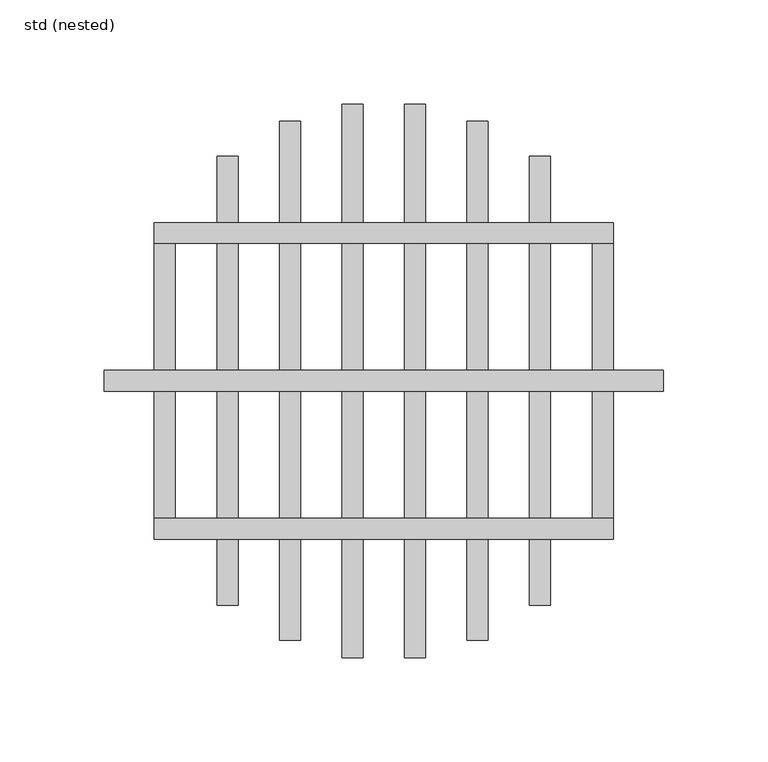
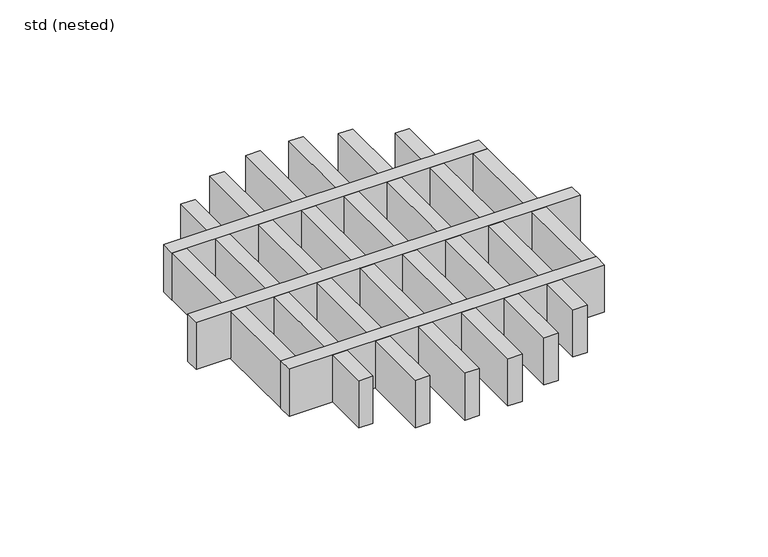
"""IFC4 building model written with IfcOpenShell, lengths in millimetres: sanitary terminal geometry, ZZZ_do not use_PF_ST_UN_round grating for hygienic gully_ACO : std (nested)."""

from ifc_helpers import new_model, si_unit, frame, origin, place, context, project, spatial, polyline, outline, extrude, source, transform, mapped, element, save


def std_nested_b7c3fa1a(model_context):
    return source(origin(), model_context, "Body", "SweptSolid", [
        extrude(outline(polyline([(110.3, 76.0), (110.3, 66.0), (-110.320743, 66.0), (-110.320743, 76.0), (110.3, 76.0)])), frame((0.0, 0.0, -35.0), z_axis=(0.0, 0.0, 1.0), x_axis=(1.0, 0.0, 0.0)), (0.0, 0.0, 1.0), 35.0),
        extrude(outline(polyline([(110.3, -76.0), (-110.320743, -76.0), (-110.320743, -66.0), (110.3, -66.0), (110.3, -76.0)])), frame((0.0, 0.0, -35.0), z_axis=(0.0, 0.0, 1.0), x_axis=(1.0, 0.0, 0.0)), (0.0, 0.0, 1.0), 35.0),
        extrude(outline(polyline([(134.3, 5.0), (134.3, -5.0), (-134.3, -5.0), (-134.3, 5.0), (134.3, 5.0)])), frame((0.0, 0.0, -35.0), z_axis=(0.0, 0.0, 1.0), x_axis=(1.0, 0.0, 0.0)), (0.0, 0.0, 1.0), 35.0),
        extrude(outline(polyline([(-100.3, 65.9), (-100.3, 5.0), (-110.3, 5.0), (-110.3, 65.9), (-100.3, 65.9)])), frame((0.0, 0.0, -35.0), z_axis=(0.0, 0.0, 1.0), x_axis=(1.0, 0.0, 0.0)), (0.0, 0.0, 1.0), 35.0),
        extrude(outline(polyline([(-100.3, -65.9), (-110.3, -65.9), (-110.3, -5.0), (-100.3, -5.0), (-100.3, -65.9)])), frame((0.0, 0.0, -35.0), z_axis=(0.0, 0.0, 1.0), x_axis=(1.0, 0.0, 0.0)), (0.0, 0.0, 1.0), 35.0),
        extrude(outline(polyline([(100.3, 65.9), (110.3, 65.9), (110.3, 5.0), (100.3, 5.0), (100.3, 65.9)])), frame((0.0, 0.0, -35.0), z_axis=(0.0, 0.0, 1.0), x_axis=(1.0, 0.0, 0.0)), (0.0, 0.0, 1.0), 35.0),
        extrude(outline(polyline([(100.3, -65.9), (100.3, -5.0), (110.3, -5.0), (110.3, -65.9), (100.3, -65.9)])), frame((0.0, 0.0, -35.0), z_axis=(0.0, 0.0, 1.0), x_axis=(1.0, 0.0, 0.0)), (0.0, 0.0, 1.0), 35.0),
        extrude(outline(polyline([(-69.999, 65.9), (-69.999, 5.0), (-79.999, 5.0), (-79.999, 65.9), (-69.999, 65.9)])), frame((0.0, 0.0, -35.0), z_axis=(0.0, 0.0, 1.0), x_axis=(1.0, 0.0, 0.0)), (0.0, 0.0, 1.0), 35.0),
        extrude(outline(polyline([(-69.999, -65.9), (-79.999, -65.9), (-79.999, -5.0), (-69.999, -5.0), (-69.999, -65.9)])), frame((0.0, 0.0, -35.0), z_axis=(0.0, 0.0, 1.0), x_axis=(1.0, 0.0, 0.0)), (0.0, 0.0, 1.0), 35.0),
        extrude(outline(polyline([(-40.0, 65.9), (-40.0, 5.0), (-50.0, 5.0), (-50.0, 65.9), (-40.0, 65.9)])), frame((0.0, 0.0, -35.0), z_axis=(0.0, 0.0, 1.0), x_axis=(1.0, 0.0, 0.0)), (0.0, 0.0, 1.0), 35.0),
        extrude(outline(polyline([(-40.0, -65.9), (-50.0, -65.9), (-50.0, -5.0), (-40.0, -5.0), (-40.0, -65.9)])), frame((0.0, 0.0, -35.0), z_axis=(0.0, 0.0, 1.0), x_axis=(1.0, 0.0, 0.0)), (0.0, 0.0, 1.0), 35.0),
        extrude(outline(polyline([(-10.0, 65.9), (-10.0, 5.0), (-20.0, 5.0), (-20.0, 65.9), (-10.0, 65.9)])), frame((0.0, 0.0, -35.0), z_axis=(0.0, 0.0, 1.0), x_axis=(1.0, 0.0, 0.0)), (0.0, 0.0, 1.0), 35.0),
        extrude(outline(polyline([(-10.0, -65.9), (-20.0, -65.9), (-20.0, -5.0), (-10.0, -5.0), (-10.0, -65.9)])), frame((0.0, 0.0, -35.0), z_axis=(0.0, 0.0, 1.0), x_axis=(1.0, 0.0, 0.0)), (0.0, 0.0, 1.0), 35.0),
        extrude(outline(polyline([(20.0, 65.9), (20.0, 5.0), (10.0, 5.0), (10.0, 65.9), (20.0, 65.9)])), frame((0.0, 0.0, -35.0), z_axis=(0.0, 0.0, 1.0), x_axis=(1.0, 0.0, 0.0)), (0.0, 0.0, 1.0), 35.0),
        extrude(outline(polyline([(20.0, -65.9), (10.0, -65.9), (10.0, -5.0), (20.0, -5.0), (20.0, -65.9)])), frame((0.0, 0.0, -35.0), z_axis=(0.0, 0.0, 1.0), x_axis=(1.0, 0.0, 0.0)), (0.0, 0.0, 1.0), 35.0),
        extrude(outline(polyline([(50.0, 65.9), (50.0, 5.0), (40.0, 5.0), (40.0, 65.9), (50.0, 65.9)])), frame((0.0, 0.0, -35.0), z_axis=(0.0, 0.0, 1.0), x_axis=(1.0, 0.0, 0.0)), (0.0, 0.0, 1.0), 35.0),
        extrude(outline(polyline([(50.0, -65.9), (40.0, -65.9), (40.0, -5.0), (50.0, -5.0), (50.0, -65.9)])), frame((0.0, 0.0, -35.0), z_axis=(0.0, 0.0, 1.0), x_axis=(1.0, 0.0, 0.0)), (0.0, 0.0, 1.0), 35.0),
        extrude(outline(polyline([(80.001, 65.9), (80.001, 5.0), (70.001, 5.0), (70.001, 65.9), (80.001, 65.9)])), frame((0.0, 0.0, -35.0), z_axis=(0.0, 0.0, 1.0), x_axis=(1.0, 0.0, 0.0)), (0.0, 0.0, 1.0), 35.0),
        extrude(outline(polyline([(80.001, -65.9), (70.001, -65.9), (70.001, -5.0), (80.001, -5.0), (80.001, -65.9)])), frame((0.0, 0.0, -35.0), z_axis=(0.0, 0.0, 1.0), x_axis=(1.0, 0.0, 0.0)), (0.0, 0.0, 1.0), 35.0),
        extrude(outline(polyline([(-69.999, 107.8), (-69.999, 76.1441897), (-79.999, 76.1441897), (-79.999, 107.8), (-69.999, 107.8)])), frame((0.0, 0.0, -35.0), z_axis=(0.0, 0.0, 1.0), x_axis=(1.0, 0.0, 0.0)), (0.0, 0.0, 1.0), 35.0),
        extrude(outline(polyline([(69.999, 107.8), (79.999, 107.8), (79.999, 76.1441897), (69.999, 76.1441897), (69.999, 107.8)])), frame((0.0, 0.0, -35.0), z_axis=(0.0, 0.0, 1.0), x_axis=(1.0, 0.0, 0.0)), (0.0, 0.0, 1.0), 35.0),
        extrude(outline(polyline([(-40.0, 124.6), (-40.0, 76.1), (-49.999, 76.1), (-49.999, 124.6), (-40.0, 124.6)])), frame((0.0, 0.0, -35.0), z_axis=(0.0, 0.0, 1.0), x_axis=(1.0, 0.0, 0.0)), (0.0, 0.0, 1.0), 35.0),
        extrude(outline(polyline([(40.0, 124.6), (49.999, 124.6), (49.999, 76.1), (40.0, 76.1), (40.0, 124.6)])), frame((0.0, 0.0, -35.0), z_axis=(0.0, 0.0, 1.0), x_axis=(1.0, 0.0, 0.0)), (0.0, 0.0, 1.0), 35.0),
        extrude(outline(polyline([(-10.0, 132.8), (-10.0, 76.1), (-20.0, 76.1), (-20.0, 132.8), (-10.0, 132.8)])), frame((0.0, 0.0, -35.0), z_axis=(0.0, 0.0, 1.0), x_axis=(1.0, 0.0, 0.0)), (0.0, 0.0, 1.0), 35.0),
        extrude(outline(polyline([(10.0, 132.8), (20.0, 132.8), (20.0, 76.1), (10.0, 76.1), (10.0, 132.8)])), frame((0.0, 0.0, -35.0), z_axis=(0.0, 0.0, 1.0), x_axis=(1.0, 0.0, 0.0)), (0.0, 0.0, 1.0), 35.0),
        extrude(outline(polyline([(-69.999, -107.8), (-79.999, -107.8), (-79.999, -76.1441897), (-69.999, -76.1441897), (-69.999, -107.8)])), frame((0.0, 0.0, -35.0), z_axis=(0.0, 0.0, 1.0), x_axis=(1.0, 0.0, 0.0)), (0.0, 0.0, 1.0), 35.0),
        extrude(outline(polyline([(69.999, -107.8), (69.999, -76.1441897), (79.999, -76.1441897), (79.999, -107.8), (69.999, -107.8)])), frame((0.0, 0.0, -35.0), z_axis=(0.0, 0.0, 1.0), x_axis=(1.0, 0.0, 0.0)), (0.0, 0.0, 1.0), 35.0),
        extrude(outline(polyline([(-40.0, -124.6), (-49.999, -124.6), (-49.999, -76.1), (-40.0, -76.1), (-40.0, -124.6)])), frame((0.0, 0.0, -35.0), z_axis=(0.0, 0.0, 1.0), x_axis=(1.0, 0.0, 0.0)), (0.0, 0.0, 1.0), 35.0),
        extrude(outline(polyline([(40.0, -124.6), (40.0, -76.1), (49.999, -76.1), (49.999, -124.6), (40.0, -124.6)])), frame((0.0, 0.0, -35.0), z_axis=(0.0, 0.0, 1.0), x_axis=(1.0, 0.0, 0.0)), (0.0, 0.0, 1.0), 35.0),
        extrude(outline(polyline([(-10.0, -132.8), (-20.0, -132.8), (-20.0, -76.1), (-10.0, -76.1), (-10.0, -132.8)])), frame((0.0, 0.0, -35.0), z_axis=(0.0, 0.0, 1.0), x_axis=(1.0, 0.0, 0.0)), (0.0, 0.0, 1.0), 35.0),
        extrude(outline(polyline([(10.0, -132.8), (10.0, -76.1), (20.0, -76.1), (20.0, -132.8), (10.0, -132.8)])), frame((0.0, 0.0, -35.0), z_axis=(0.0, 0.0, 1.0), x_axis=(1.0, 0.0, 0.0)), (0.0, 0.0, 1.0), 35.0),
    ])


if __name__ == "__main__":
    model = new_model("IFC4")
    model_context = context("Model", 3, world=origin())
    ifc_project = project(units=[si_unit("LENGTHUNIT", "METRE", prefix="MILLI")], contexts=[model_context])
    site = spatial("IfcSite", under=ifc_project)
    building = spatial("IfcBuilding", under=site)
    placement = place(None, origin())
    std_nested_shape = std_nested_b7c3fa1a(model_context)
    element("IfcSanitaryTerminal", 1, ObjectType="ZZZ_do not use_PF_ST_UN_round grating for hygienic gully_ACO : std (nested)", at=placement, inside=building, context=model_context, shape_type="MappedRepresentation", body=[
        mapped(std_nested_shape, transform((0.0, 0.0, 0.0), x_axis=(1.0, 0.0, 0.0), y_axis=(0.0, 1.0, 0.0), z_axis=(0.0, 0.0, 1.0))),
    ])
    save(model, "model.ifc")
